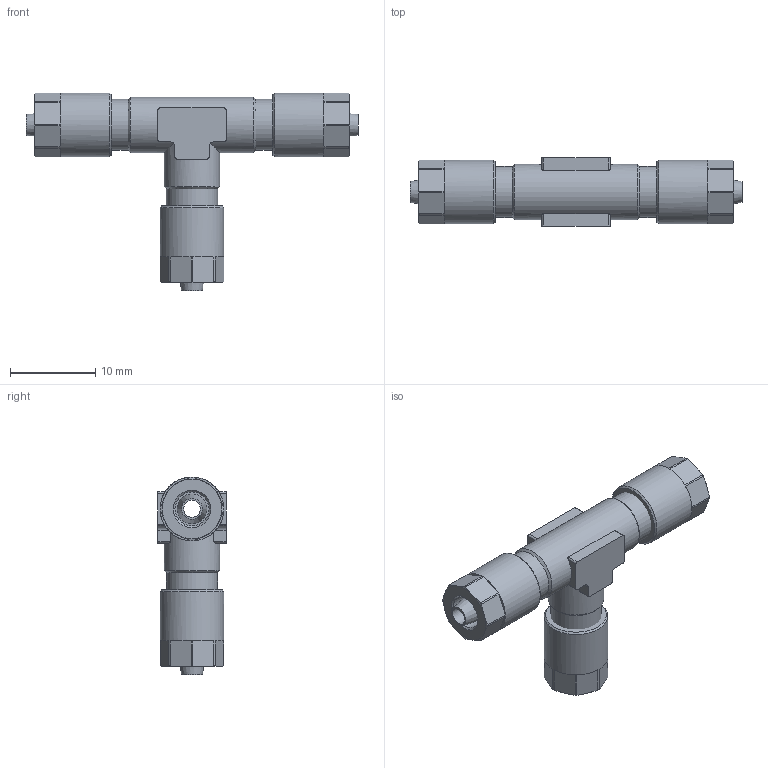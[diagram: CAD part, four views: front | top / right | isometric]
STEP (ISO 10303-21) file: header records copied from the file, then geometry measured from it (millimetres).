
FILE_DESCRIPTION(/* description */ (''),/* implementation_level */ '2;1');
FILE_NAME(/* name */ '12300_309_4-2,7_20.02.17',/* time_stamp */ '2017-02-20T12:25:01+01:00',/* author */ (''),/* organization */ (''),/* preprocessor_version */ 'ST-DEVELOPER v16.5',/* originating_system */ 'HiCAD 2016 2102.1 Build 498',/* authorisation */ '');
FILE_SCHEMA (('AUTOMOTIVE_DESIGN { 1 0 10303 214 1 1 1 1 }'));
Length unit declared in the file: millimetre
Products named in the file (5): Root; R12300; 17001
Assembly tree (4 placements, depth 2):
  Root
    R12300
    17001
    17001
    17001
Bounding box: 39 x 8 x 23.25 mm (x, y, z)
Volume: 1838 mm3; surface area: 2541.9 mm2
Topology: 4 solids, 4 shells, 161 faces, 403 edges, 255 vertices
Faces by surface type: plane 81, cone 45, cylinder 35
Full cylindrical faces by diameter (mm): 2 x2, 3.1 x3, 4 x3, 5.08 x3, 6 x3, 6.5 x2, 7.5 x3
Entity records: 10866 total; most frequent: CARTESIAN_POINT 3578, DIRECTION 862, PRESENTATION_STYLE_ASSIGNMENT 698, COLOUR_RGB 695, DRAUGHTING_PRE_DEFINED_CURVE_FONT 694, CURVE_STYLE 694, OVER_RIDING_STYLED_ITEM 694, ORIENTED_EDGE 694
